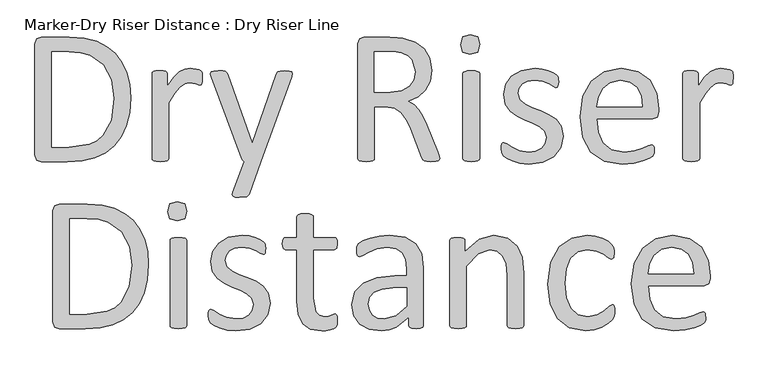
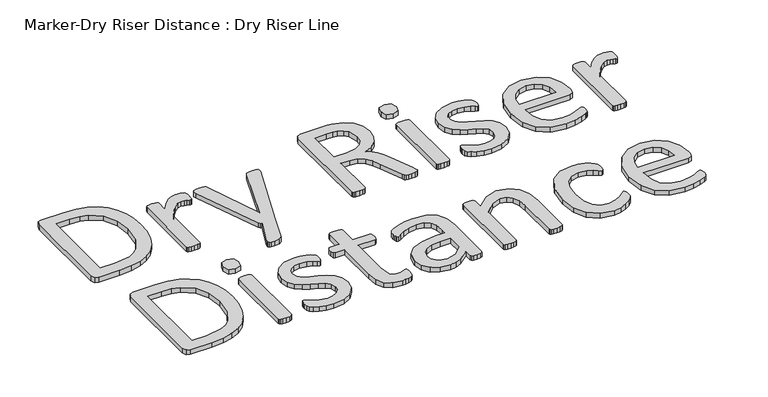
"""IFC4 building model written with IfcOpenShell, lengths in millimetres: proxy geometry, Marker-Dry Riser Distance : Dry Riser Line."""

from ifc_helpers import new_model, si_unit, origin, origin_with_axes, place, context, project, spatial, polyline, outline, extrude, source, transform, mapped, element, save


def marker_dry_riser_distance_dry_riser_line_da1380dd(model_context):
    return source(origin(), model_context, "Body", "SweptSolid", [
        extrude(outline(polyline([(3500.4735676, 150.5609909), (3498.8073663, 126.1485024), (3493.8087623, 105.0231804), (3485.6059249, 87.2151824), (3474.3270235, 72.7546657), (3460.0625306, 61.5737762), (3442.9029185, 53.6046594), (3422.5089157, 48.8322365), (3398.5412502, 47.2414289), (3356.0191888, 47.2414289), (3349.2337535, 49.6540281), (3346.067217, 58.0981254), (3346.067217, 237.1129882), (3349.2337535, 245.5570855), (3356.0191888, 247.9696848), (3401.4966843, 247.9696848), (3425.5397435, 246.2808653), (3445.5567777, 241.2144069), (3462.1057005, 232.9889514), (3475.7444255, 221.8231406), (3486.4503346, 207.8451438), (3494.2008097, 191.1831304), (3498.9053781, 172.0255847), (3500.4735676, 150.5609909)]), holes=[polyline([(3473.4524563, 149.3546913), (3469.3811951, 179.3312367), (3456.6547341, 203.336599), (3434.7000812, 219.139124), (3419.4931666, 223.3913301), (3400.4713296, 224.8087322), (3373.0883283, 224.8087322), (3373.0883283, 70.4023815), (3400.7729045, 70.4023815), (3433.4334666, 75.167265), (3445.6321714, 81.1912237), (3455.6293795, 89.7333328), (3468.9891477, 114.341845), (3473.4524563, 149.3546913)])]), origin_with_axes(), (0.0, 0.0, 1.0), 10.0),
        extrude(outline(polyline([(3616.2783306, 182.3469857), (3616.1275432, 176.8583225), (3615.5243934, 173.2997386), (3614.4085662, 171.2791868), (3612.5388018, 170.5855645), (3609.6135253, 171.2791868), (3605.723209, 172.6664313), (3600.8678531, 173.9933609), (3595.0474574, 174.6266682), (3587.6890298, 172.9680062), (3580.1194997, 167.539658), (3571.8261899, 157.5273712), (3562.2361079, 142.2375235), (3562.2361079, 51.9459974), (3561.5726431, 49.8952881), (3559.4314613, 48.4477285), (3555.3602001, 47.5430038), (3548.6652373, 47.2414289), (3542.0909044, 47.5430038), (3537.9291707, 48.4477285), (3535.7879889, 49.8952881), (3535.2149965, 51.9459974), (3535.2149965, 189.2228935), (3535.6975164, 191.2736029), (3537.6577533, 192.7814774), (3541.4274396, 193.6862021), (3547.5192526, 193.927462), (3553.4904357, 193.6862021), (3557.1696495, 192.7814774), (3559.0695714, 191.2736029), (3559.6425637, 189.2228935), (3559.6425637, 169.1983199), (3570.0770554, 183.4929704), (3579.335405, 192.2084851), (3587.9604472, 196.5813212), (3596.6156469, 197.7876208), (3601.0186405, 197.5765184), (3606.2057289, 196.7622661), (3611.0912423, 195.4051791), (3614.1673063, 193.927462), (3615.3736059, 192.5402175), (3615.9164408, 190.8212405), (3616.2180157, 187.775334), (3616.2783306, 182.3469857)])), origin_with_axes(), (0.0, 0.0, 1.0), 10.0),
        extrude(outline(polyline([(3711.0331654, 47.2414289), (3692.4561513, -5.4135493), (3687.7515828, -9.3038655), (3676.2314215, -10.6609526), (3669.7777186, -10.2689052), (3665.9778748, -8.9118182), (3664.5001577, -6.3484315), (3665.254095, -2.5184302), (3684.4342589, 47.2414289), (3681.8105572, 49.2318233), (3680.0915803, 52.1269423), (3630.5126661, 184.0961202), (3629.2460515, 189.192736), (3630.4825086, 192.0878551), (3634.4934548, 193.5354147), (3641.9121975, 193.927462), (3649.1801526, 193.6862021), (3653.3720438, 192.8417924), (3655.6338556, 191.0926579), (3657.0512576, 187.9562789), (3696.7988299, 77.1576593), (3735.5813625, 188.5594287), (3737.8431743, 192.2989576), (3741.7636481, 193.5354147), (3749.3331781, 193.927462), (3756.4503459, 193.5354147), (3760.5517646, 192.0878551), (3761.8786941, 189.192736), (3760.9136544, 184.57864), (3711.0331654, 47.2414289)])), origin_with_axes(), (0.0, 0.0, 1.0), 10.0),
        extrude(outline(polyline([(3999.7006631, 52.1269423), (3999.2483008, 50.015918), (3997.2579064, 48.477886), (3992.9152278, 47.5430038), (3985.4663277, 47.2414289), (3978.9221523, 47.5430038), (3974.8207336, 48.538201), (3972.4382919, 50.4381229), (3970.9907323, 53.5141869), (3952.5946632, 99.9567221), (3945.9298578, 114.4926324), (3937.8476504, 125.9223213), (3926.8401664, 133.3712214), (3911.5804763, 136.0250805), (3894.2097618, 136.0250805), (3894.2097618, 52.1269423), (3893.5161396, 49.9857605), (3891.3146428, 48.538201), (3887.2132241, 47.6334763), (3880.6992062, 47.2414289), (3874.1851882, 47.6334763), (3870.0234546, 48.5683585), (3867.8219578, 50.015918), (3867.1886505, 52.1872573), (3867.1886505, 237.1733032), (3870.294872, 245.587243), (3876.9596774, 247.9696848), (3918.818274, 247.9696848), (3931.182845, 247.5776374), (3940.1094622, 246.7030702), (3960.2848232, 240.3699972), (3975.0016785, 229.3323557), (3983.8981382, 214.0123506), (3986.8535723, 195.0131317), (3984.2298706, 176.9186375), (3976.630183, 162.7747745), (3964.7179743, 152.1593379), (3949.1567093, 144.5294928), (3958.1436414, 139.0709871), (3965.6528565, 131.1697246), (3972.1970319, 120.5844455), (3978.4094749, 107.0738898), (3996.3230242, 63.3455288), (3999.0975133, 55.6252112), (3999.7006631, 52.1269423)]), holes=[polyline([(3959.8324609, 192.1180126), (3954.67553, 211.4791214), (3947.7619254, 218.2796355), (3937.3349731, 222.8786528), (3928.7702458, 224.3563698), (3916.2247298, 224.8087322), (3894.2097618, 224.8087322), (3894.2097618, 159.1860331), (3919.7229987, 159.1860331), (3937.576233, 161.6589473), (3950.121749, 168.5951701), (3957.4801766, 179.0598193), (3959.8324609, 192.1180126)])]), origin_with_axes(), (0.0, 0.0, 1.0), 10.0),
        extrude(outline(polyline([(4064.0567476, 236.5701534), (4060.7394236, 224.2357399), (4048.4351676, 220.9485734), (4036.4324864, 224.1452674), (4033.1754775, 236.2082635), (4036.4928014, 248.5426771), (4048.7970575, 251.8298435), (4060.7997386, 248.6331496), (4064.0567476, 236.5701534)])), origin_with_axes(), (0.0, 0.0, 1.0), 10.0),
        extrude(outline(polyline([(4064.0567476, 51.9459974), (4063.3932828, 49.8952881), (4061.252101, 48.4477285), (4057.1808398, 47.5430038), (4050.4858769, 47.2414289), (4043.911544, 47.5430038), (4039.7498104, 48.4477285), (4037.6086285, 49.8952881), (4037.0356362, 51.9459974), (4037.0356362, 189.2228935), (4037.6086285, 191.1831304), (4039.7498104, 192.7211624), (4043.911544, 193.6258871), (4050.4858769, 193.927462), (4057.1808398, 193.6258871), (4061.252101, 192.7211624), (4063.3932828, 191.1831304), (4064.0567476, 189.2228935), (4064.0567476, 51.9459974)])), origin_with_axes(), (0.0, 0.0, 1.0), 10.0),
        extrude(outline(polyline([(4199.1623044, 88.4968757), (4195.1513582, 69.2865544), (4183.7216694, 55.0823764), (4166.0795375, 46.3367042), (4143.5518922, 43.3812701), (4129.1064543, 44.7685147), (4116.8323557, 48.2969411), (4107.6343212, 52.7602496), (4102.1155004, 56.9521408), (4099.5822712, 61.3852919), (4098.7981765, 68.4119871), (4099.0997514, 72.9657682), (4099.8838461, 75.9513597), (4101.2107757, 77.6100217), (4103.1408551, 78.122699), (4108.1469985, 75.7100998), (4116.3498359, 70.4023815), (4127.9001547, 65.0946632), (4143.1900023, 62.682064), (4154.9514235, 64.159781), (4164.0891431, 68.5326171), (4170.0603262, 75.8910447), (4172.1411931, 86.4461664), (4169.1556015, 96.4282957), (4161.2241815, 103.6359359), (4150.1563826, 109.1849141), (4137.4902366, 114.2513725), (4124.7336182, 120.2527131), (4113.5753468, 128.4555505), (4105.6439268, 140.0058693), (4102.6583353, 156.1099691), (4105.8550292, 171.9426516), (4115.4451112, 185.2119473), (4131.4285811, 194.3496669), (4153.8657539, 197.7876208), (4165.0843403, 196.7622661), (4175.2172571, 194.168722), (4182.9375746, 190.791083), (4187.7627731, 187.5943891), (4189.9341124, 185.3024198), (4190.7182071, 183.3120254), (4191.200727, 180.5676938), (4191.4419869, 176.5567476), (4191.200727, 172.1839115), (4190.4166322, 169.138005), (4189.0595451, 167.419028), (4187.2802532, 166.9063507), (4183.1185195, 168.7459576), (4176.0918243, 172.6965888), (4165.9589075, 176.6472201), (4152.6594543, 178.486827), (4140.8377181, 176.948795), (4132.4539357, 172.5759589), (4127.5081073, 165.880996), (4125.8192879, 157.4972137), (4129.0159818, 147.2738244), (4137.3696067, 140.0058693), (4149.1008704, 134.3965761), (4162.4907961, 129.2698027), (4175.9711943, 123.3287771), (4187.7627731, 115.3671996), (4196.0259254, 104.1184557), (4199.1623044, 88.4968757)])), origin_with_axes(), (0.0, 0.0, 1.0), 10.0),
        extrude(outline(polyline([(4353.5686551, 127.7619282), (4350.5830635, 119.2575159), (4343.7373132, 116.7242867), (4253.2045272, 116.7242867), (4255.4663389, 94.4077438), (4262.975554, 77.3989193), (4276.6670547, 66.4819078), (4297.2947781, 62.682064), (4314.4242326, 64.4613559), (4327.4522684, 68.4723021), (4336.469358, 72.4832483), (4341.8072338, 74.2625403), (4343.6769982, 73.7498629), (4344.9737703, 72.2419884), (4345.6372351, 69.4373418), (4345.8483376, 65.0343482), (4345.6975501, 61.8074967), (4345.3055027, 59.36474), (4344.5515655, 57.4045032), (4343.1944784, 55.7458412), (4338.2788075, 52.8205646), (4327.6935284, 48.6588309), (4312.6147832, 45.0097746), (4294.339344, 43.3812701), (4264.8754759, 48.2064686), (4243.6144452, 62.561434), (4230.5864094, 86.4763239), (4226.1834158, 119.8606657), (4230.7975118, 152.4307553), (4244.0969651, 176.9186375), (4265.0865784, 192.38943), (4292.6505245, 197.7876208), (4320.3954157, 192.570375), (4339.2438472, 178.5169845), (4350.1005437, 157.7987886), (4353.5686551, 132.4061817), (4353.5686551, 127.7619282)]), holes=[polyline([(4326.5475437, 136.0250805), (4324.5948462, 153.7350668), (4317.892344, 167.1777681), (4306.6059032, 175.6595622), (4290.9013901, 178.486827), (4274.8274477, 174.9885581), (4263.2771289, 165.6698936), (4256.0694887, 152.1291804), (4253.2045272, 136.0250805), (4326.5475437, 136.0250805)])]), origin_with_axes(), (0.0, 0.0, 1.0), 10.0),
        extrude(outline(polyline([(4473.2335769, 182.3469857), (4473.0827894, 176.8583225), (4472.4796396, 173.2997386), (4471.3638124, 171.2791868), (4469.494048, 170.5855645), (4466.5687715, 171.2791868), (4462.6784552, 172.6664313), (4457.8230993, 173.9933609), (4452.0027036, 174.6266682), (4444.644276, 172.9680062), (4437.0747459, 167.539658), (4428.7814361, 157.5273712), (4419.1913541, 142.2375235), (4419.1913541, 51.9459974), (4418.5278893, 49.8952881), (4416.3867075, 48.4477285), (4412.3154463, 47.5430038), (4405.6204835, 47.2414289), (4399.0461506, 47.5430038), (4394.8844169, 48.4477285), (4392.7432351, 49.8952881), (4392.1702428, 51.9459974), (4392.1702428, 189.2228935), (4392.6527626, 191.2736029), (4394.6129995, 192.7814774), (4398.3826858, 193.6862021), (4404.4744988, 193.927462), (4410.4456819, 193.6862021), (4414.1248957, 192.7814774), (4416.0248176, 191.2736029), (4416.5978099, 189.2228935), (4416.5978099, 169.1983199), (4427.0323016, 183.4929704), (4436.2906512, 192.2084851), (4444.9156934, 196.5813212), (4453.5708931, 197.7876208), (4457.9738867, 197.5765184), (4463.1609751, 196.7622661), (4468.0464885, 195.4051791), (4471.1225525, 193.927462), (4472.3288521, 192.5402175), (4472.871687, 190.8212405), (4473.1732619, 187.775334), (4473.2335769, 182.3469857)])), origin_with_axes(), (0.0, 0.0, 1.0), 10.0),
        extrude(outline(polyline([(3529.4247584, -118.9218669), (3527.7585571, -143.3343554), (3522.759953, -164.4596774), (3514.5571156, -182.2676754), (3503.2782143, -196.7281921), (3489.0137213, -207.9090816), (3471.8541093, -215.8781984), (3451.4601064, -220.6506213), (3427.492441, -222.2414289), (3384.9703796, -222.2414289), (3378.1849442, -219.8288297), (3375.0184077, -211.3847324), (3375.0184077, -32.3698696), (3378.1849442, -23.9257723), (3384.9703796, -21.513173), (3430.447875, -21.513173), (3454.4909342, -23.2019925), (3474.5079684, -28.2684509), (3491.0568913, -36.4939064), (3504.6956163, -47.6597172), (3515.4015254, -61.637714), (3523.1520004, -78.2997274), (3527.8565689, -97.4572731), (3529.4247584, -118.9218669)]), holes=[polyline([(3502.403647, -120.1281665), (3498.3323858, -90.1516211), (3485.6059249, -66.1462588), (3463.6512719, -50.3437338), (3448.4443574, -46.0915277), (3429.4225203, -44.6741256), (3402.0395191, -44.6741256), (3402.0395191, -199.0804763), (3429.7240953, -199.0804763), (3462.3846573, -194.3155928), (3474.5833622, -188.2916341), (3484.5805702, -179.749525), (3497.9403385, -155.1410128), (3502.403647, -120.1281665)])]), origin_with_axes(), (0.0, 0.0, 1.0), 10.0),
        extrude(outline(polyline([(3591.1872987, -217.5368604), (3590.5238339, -219.5875697), (3588.3826521, -221.0351293), (3584.3113909, -221.939854), (3577.616428, -222.2414289), (3571.0420951, -221.939854), (3566.8803614, -221.0351293), (3564.7391796, -219.5875697), (3564.1661873, -217.5368604), (3564.1661873, -80.2599643), (3564.7391796, -78.2997274), (3566.8803614, -76.7616954), (3571.0420951, -75.8569707), (3577.616428, -75.5553958), (3584.3113909, -75.8569707), (3588.3826521, -76.7616954), (3590.5238339, -78.2997274), (3591.1872987, -80.2599643), (3591.1872987, -217.5368604)])), origin_with_axes(), (0.0, 0.0, 1.0), 10.0),
        extrude(outline(polyline([(3591.1872987, -32.9127044), (3587.8699747, -45.2471179), (3575.5657187, -48.5342844), (3563.5630375, -45.3375904), (3560.3060285, -33.2745943), (3563.6233525, -20.9401807), (3575.9276085, -17.6530143), (3587.9302897, -20.8497082), (3591.1872987, -32.9127044)])), origin_with_axes(), (0.0, 0.0, 1.0), 10.0),
        extrude(outline(polyline([(3726.2928555, -180.9859821), (3722.2819093, -200.1963034), (3710.8522204, -214.4004814), (3693.2100886, -223.1461536), (3670.6824433, -226.1015877), (3656.2370054, -224.7143431), (3643.9629068, -221.1859167), (3634.7648722, -216.7226082), (3629.2460515, -212.530717), (3626.7128223, -208.0975659), (3625.9287276, -201.0708707), (3626.2303025, -196.5170896), (3627.0143972, -193.5314981), (3628.3413268, -191.8728361), (3630.2714062, -191.3601588), (3635.2775496, -193.772758), (3643.480387, -199.0804763), (3655.0307058, -204.3881946), (3670.3205534, -206.8007938), (3682.0819746, -205.3230768), (3691.2196942, -200.9502407), (3697.1908773, -193.5918131), (3699.2717441, -183.0366914), (3696.2861526, -173.0545621), (3688.3547326, -165.8469219), (3677.2869337, -160.2979437), (3664.6207877, -155.2314853), (3651.8641693, -149.2301447), (3640.7058978, -141.0273073), (3632.7744779, -129.4769885), (3629.7888863, -113.3728887), (3632.9855803, -97.5402062), (3642.5756622, -84.2709105), (3658.5591321, -75.1331909), (3680.996305, -71.695237), (3692.2148914, -72.7205917), (3702.3478081, -75.3141358), (3710.0681257, -78.6917748), (3714.8933241, -81.8884687), (3717.0646634, -84.180438), (3717.8487582, -86.1708324), (3718.331278, -88.915164), (3718.572538, -92.9261102), (3718.331278, -97.2989463), (3717.5471833, -100.3448528), (3716.1900962, -102.0638298), (3714.4108043, -102.5765071), (3710.2490706, -100.7369002), (3703.2223754, -96.786269), (3693.0894586, -92.8356377), (3679.7900054, -90.9960308), (3667.9682691, -92.5340628), (3659.5844868, -96.9068989), (3654.6386584, -103.6018618), (3652.9498389, -111.9856441), (3656.1465329, -122.2090334), (3664.5001577, -129.4769885), (3676.2314215, -135.0862817), (3689.6213472, -140.2130551), (3703.1017454, -146.1540807), (3714.8933241, -154.1156582), (3723.1564765, -165.3644021), (3726.2928555, -180.9859821)])), origin_with_axes(), (0.0, 0.0, 1.0), 10.0),
        extrude(outline(polyline([(3834.377301, -208.3689833), (3833.7741512, -215.9083559), (3831.9345442, -220.0097746), (3828.2553304, -222.4826888), (3822.6761947, -224.3826107), (3816.0113893, -225.6190678), (3808.9846941, -226.1015877), (3790.6187824, -223.1763111), (3778.1034239, -214.3401664), (3770.9862562, -199.3518937), (3768.7546019, -177.9099181), (3768.7546019, -94.8561896), (3750.4188478, -94.8561896), (3746.8904214, -92.5943778), (3745.5936493, -85.2661077), (3745.9555392, -80.7726416), (3746.8904214, -77.7267351), (3748.4284534, -76.0379156), (3750.5394778, -75.5553958), (3768.7546019, -75.5553958), (3768.7546019, -41.9599515), (3769.3275942, -39.9393996), (3771.4687761, -38.2807377), (3775.6305097, -37.255383), (3782.2048426, -36.9538081), (3788.8998055, -37.255383), (3792.9710667, -38.2807377), (3795.1122485, -39.9393996), (3795.7757133, -41.9599515), (3795.7757133, -75.5553958), (3829.5521025, -75.5553958), (3831.5726544, -76.0379156), (3833.1106864, -77.7267351), (3834.0757261, -80.7726416), (3834.377301, -85.2661077), (3833.0503714, -92.5943778), (3829.5521025, -94.8561896), (3795.7757133, -94.8561896), (3795.7757133, -173.5069245), (3799.7866595, -195.4917349), (3805.3884134, -201.07841), (3814.1717824, -202.9406351), (3820.173123, -202.2470128), (3824.847534, -200.7994533), (3828.3759604, -199.3217362), (3830.999662, -198.5979565), (3833.4122613, -200.4677209), (3834.0757261, -203.4834699), (3834.377301, -208.3689833)])), origin_with_axes(), (0.0, 0.0, 1.0), 10.0),
        extrude(outline(polyline([(3973.3430166, -217.5971754), (3972.016087, -220.401822), (3968.3971881, -221.7890665), (3961.6419103, -222.2414289), (3954.79616, -221.7890665), (3951.0867887, -220.401822), (3949.940804, -217.5971754), (3949.940804, -203.7247298), (3929.6146555, -219.7685147), (3918.0643367, -224.5183194), (3905.8505531, -226.1015877), (3885.916452, -223.2366261), (3870.7472343, -214.9433162), (3861.006365, -201.6137055), (3857.5382536, -183.6398412), (3862.3332945, -163.1930628), (3876.0851101, -148.7777824), (3898.0096056, -140.1828976), (3927.2020563, -137.317936), (3946.3219052, -137.317936), (3946.3219052, -125.7977747), (3944.6330857, -110.7190295), (3939.2047375, -99.802018), (3929.5241831, -93.2276851), (3914.8978002, -90.9960308), (3898.1603931, -93.4086301), (3885.1926722, -98.7163484), (3875.8740077, -104.0240667), (3870.3250295, -106.4366659), (3868.1536902, -105.8033586), (3866.5553432, -103.8732792), (3865.560146, -100.5559553), (3865.2585711, -96.1228042), (3865.8014059, -89.7897312), (3868.4552651, -85.3565801), (3875.6930628, -80.8329566), (3887.514799, -76.369648), (3902.1411818, -73.0221666), (3918.1548092, -71.695237), (3943.788676, -75.1030334), (3960.887973, -85.0550052), (3970.3875825, -101.3098925), (3973.3430166, -123.9883253), (3973.3430166, -217.5971754)]), holes=[polyline([(3946.3219052, -156.6187299), (3924.8497721, -156.6187299), (3906.9362228, -158.3980218), (3894.3002343, -163.6454251), (3886.9116492, -171.9688925), (3884.5593649, -183.1573214), (3886.2481844, -192.8981908), (3891.3146428, -200.4074059), (3899.4270077, -205.2024468), (3910.2535467, -206.8007938), (3928.5893009, -201.704178), (3946.3219052, -186.1127554), (3946.3219052, -156.6187299)])]), origin_with_axes(), (0.0, 0.0, 1.0), 10.0),
        extrude(outline(polyline([(4135.4696848, -217.4765454), (4134.80622, -219.5272548), (4132.6650382, -221.0049718), (4128.593777, -221.939854), (4122.0194441, -222.2414289), (4115.3244812, -221.939854), (4111.25322, -221.0351293), (4109.1120382, -219.5875697), (4108.4485734, -217.4765454), (4108.4485734, -136.8957312), (4106.6692815, -117.9568272), (4101.5123506, -105.5620987), (4092.7365209, -97.6005212), (4080.2814774, -94.8561896), (4061.9758807, -101.58131), (4042.8258744, -121.3344661), (4042.8258744, -217.4765454), (4042.1624096, -219.5875697), (4040.0212278, -221.0351293), (4035.9499666, -221.939854), (4029.2550037, -222.2414289), (4022.6806708, -221.939854), (4018.5189371, -221.0351293), (4016.3777553, -219.5875697), (4015.804763, -217.5368604), (4015.804763, -80.2599643), (4016.2872828, -78.2092549), (4018.2475197, -76.7013804), (4022.017206, -75.7966557), (4028.1090191, -75.5553958), (4034.0802022, -75.7966557), (4037.759416, -76.7013804), (4039.6593379, -78.2092549), (4040.2323302, -80.2599643), (4040.2323302, -98.4147735), (4063.3028103, -78.1187824), (4086.4939204, -71.695237), (4109.5342431, -76.3998055), (4124.6733032, -88.975479), (4132.9666131, -107.4017056), (4135.4696848, -132.7943125), (4135.4696848, -217.4765454)])), origin_with_axes(), (0.0, 0.0, 1.0), 10.0),
        extrude(outline(polyline([(4282.1557179, -194.4965378), (4282.0049304, -198.7185864), (4281.4620956, -201.7343355), (4280.5573709, -204.1770922), (4278.1447717, -207.795991), (4271.6609113, -213.6767016), (4261.377207, -219.9193021), (4248.9824785, -224.3826107), (4235.1100329, -226.1015877), (4208.9333313, -221.0954443), (4189.8436399, -206.4690614), (4178.1123761, -182.885904), (4174.0712724, -150.6475468), (4179.0171009, -114.9109207), (4192.557814, -90.453196), (4212.7934901, -76.309333), (4238.005152, -71.695237), (4250.7316129, -73.0523241), (4262.0708293, -76.6109079), (4271.2990214, -81.6773663), (4277.1495745, -86.5930372), (4279.6526462, -89.8198887), (4280.7986308, -92.3832754), (4281.4017806, -95.5498119), (4281.5525681, -99.982963), (4280.195481, -108.0048554), (4276.9083146, -110.2968247), (4271.6910687, -107.8842254), (4264.2421686, -102.5765071), (4253.2949996, -97.2687888), (4238.1860969, -94.8561896), (4222.3157176, -98.3544585), (4210.6523082, -108.8492651), (4203.4823649, -126.0088771), (4201.0923838, -149.5015621), (4203.565298, -172.8434597), (4210.8634107, -189.6110243), (4222.7153044, -199.6534686), (4238.7892468, -202.9406351), (4253.8378344, -199.8947285), (4265.0564209, -193.1997657), (4273.0481558, -186.5952753), (4278.1146142, -183.6398412), (4279.8939061, -184.2128336), (4281.1906782, -186.1429129), (4281.9446155, -189.5808668), (4282.1557179, -194.4965378)])), origin_with_axes(), (0.0, 0.0, 1.0), 10.0),
        extrude(outline(polyline([(4436.5620686, -141.7209296), (4433.576477, -150.2253419), (4426.7307267, -152.7585711), (4336.1979406, -152.7585711), (4338.4597524, -175.075114), (4345.9689675, -192.0839385), (4359.6604681, -203.00095), (4380.2881915, -206.8007938), (4397.4176461, -205.0215019), (4410.4456819, -201.0105557), (4419.4627715, -196.9996095), (4424.8006473, -195.2203175), (4426.6704117, -195.7329949), (4427.9671838, -197.2408694), (4428.6306486, -200.045516), (4428.841751, -204.4485096), (4428.6909636, -207.6753611), (4428.2989162, -210.1181178), (4427.5449789, -212.0783546), (4426.1878919, -213.7370166), (4421.272221, -216.6622932), (4410.6869418, -220.8240269), (4395.6081967, -224.4730832), (4377.3327575, -226.1015877), (4347.8688894, -221.2763892), (4326.6078587, -206.9214238), (4313.5798229, -183.0065339), (4309.1768293, -149.6221921), (4313.7909253, -117.0521025), (4327.0903785, -92.5642203), (4348.0799918, -77.0934278), (4375.643938, -71.695237), (4403.3888292, -76.9124828), (4422.2372606, -90.9658733), (4433.0939572, -111.6840692), (4436.5620686, -137.0766761), (4436.5620686, -141.7209296)]), holes=[polyline([(4409.5409572, -133.4577773), (4407.5882597, -115.747791), (4400.8857575, -102.3050897), (4389.5993167, -93.8232956), (4373.8948036, -90.9960308), (4357.8208612, -94.4942997), (4346.2705424, -103.8129642), (4339.0629022, -117.3536774), (4336.1979406, -133.4577773), (4409.5409572, -133.4577773)])]), origin_with_axes(), (0.0, 0.0, 1.0), 10.0),
    ])


if __name__ == "__main__":
    model = new_model("IFC4")
    model_context = context("Model", 3, world=origin())
    ifc_project = project(units=[si_unit("LENGTHUNIT", "METRE", prefix="MILLI")], contexts=[model_context])
    site = spatial("IfcSite", under=ifc_project)
    building = spatial("IfcBuilding", under=site)
    placement = place(None, origin())
    marker_dry_riser_distance_dry_riser_line_shape = marker_dry_riser_distance_dry_riser_line_da1380dd(model_context)
    element("IfcBuildingElementProxy", 1, Name="Marker-Dry Riser Distance : Dry Riser Line", ObjectType="Marker-Dry Riser Distance : Dry Riser Line", at=placement, inside=building, context=model_context, shape_type="MappedRepresentation", body=[
        mapped(marker_dry_riser_distance_dry_riser_line_shape, transform((0.0, 0.0, 0.0), x_axis=(1.0, 0.0, 0.0), y_axis=(0.0, 1.0, 0.0), z_axis=(0.0, 0.0, 1.0))),
    ])
    save(model, "model.ifc")
